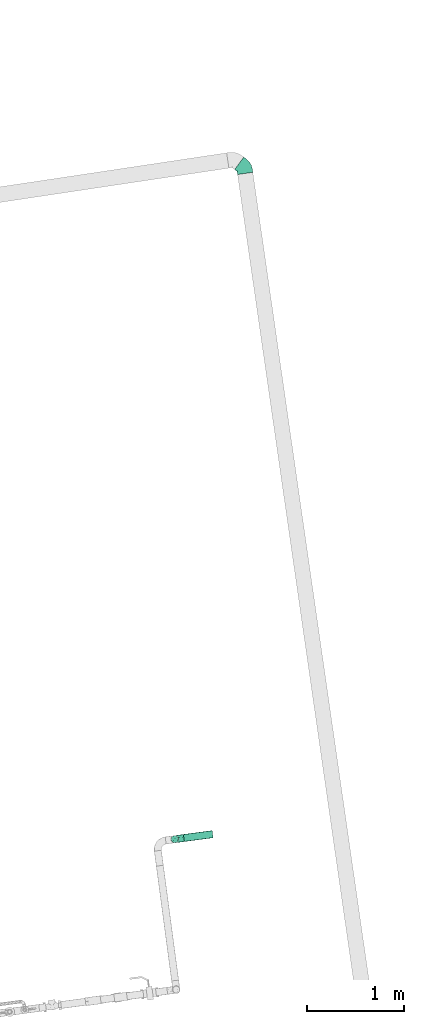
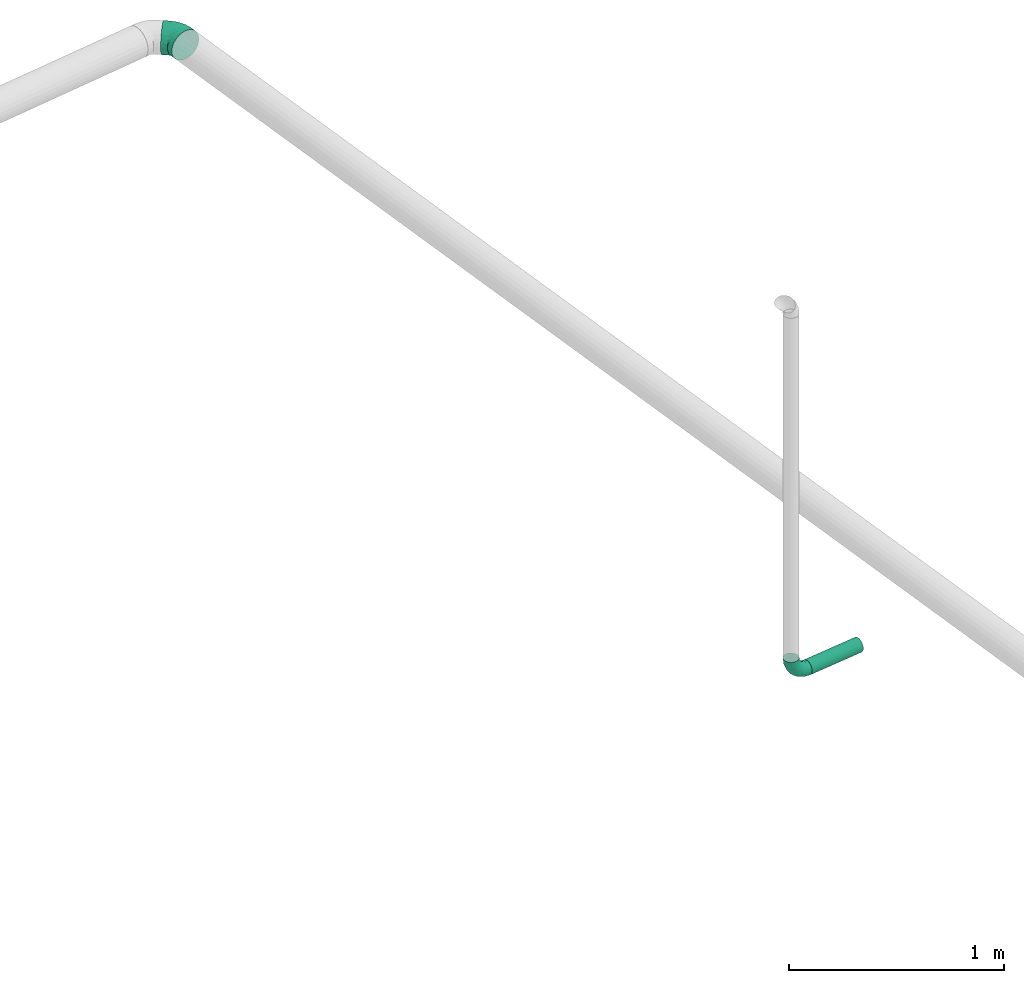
# One storey, part 337 of 374: 2 flow segments, 1 flow fitting.
"""IFC2X3 building model written with IfcOpenShell, lengths in metres."""

from ifc_helpers import new_model, si_unit, direction, origin, place, context, subcontext, project, spatial, open_shell, surface_model, source, transform, mapped, element, save


model = new_model("IFC2X3")

# Units and contexts
model_context = context("Model", 3, precision=1e-05, world=origin(), true_north=direction((-0.4480736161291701, 0.8939966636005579)))
body_context = subcontext(model_context, "Body", "Model", "MODEL_VIEW")
ifc_project = project(units=[si_unit("LENGTHUNIT", "METRE"), si_unit("AREAUNIT", "SQUARE_METRE"), si_unit("VOLUMEUNIT", "CUBIC_METRE"), si_unit("PLANEANGLEUNIT", "RADIAN"), si_unit("THERMODYNAMICTEMPERATUREUNIT", "KELVIN"), si_unit("MASSUNIT", "GRAM", prefix="KILO"), si_unit("TIMEUNIT", "SECOND")], contexts=[model_context])

# Site, building, storey
site_placement = place(None, origin())
site = spatial("IfcSite", under=ifc_project, at=site_placement, Name="Site 1", CompositionType="ELEMENT")
building_placement = place(site_placement, origin())
building = spatial("IfcBuilding", under=site, at=building_placement, Name="Undefined", CompositionType="ELEMENT")
storey_placement = place(building_placement, origin())
storey = spatial("IfcBuildingStorey", under=building, at=storey_placement, Name="Rez de chauss\x8ee", CompositionType="ELEMENT", Elevation=0.0)

# Flow fitting
shared_shape_1 = source(origin(), body_context, "Body", "SurfaceModel", [
    surface_model("IfcFaceBasedSurfaceModel", [(0.0, 0.020884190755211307, 0.0), (0.0, 0.0, 0.0), (0.03259999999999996, -3.552713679e-15, -8.8817842e-16), (0.032600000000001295, 0.0208841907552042, -1.776356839e-15), (0.0, -0.020172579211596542, -0.005405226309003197), (0.03259999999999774, -0.020172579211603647, -0.005405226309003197), (0.0, -0.03825881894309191, -0.015847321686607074), (0.03259999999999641, -0.038258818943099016, -0.015847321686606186), (0.0, -0.05302617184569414, -0.0306146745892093), (0.03259999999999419, -0.05302617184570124, -0.030614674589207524), (0.0, -0.06346826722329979, -0.04870091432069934), (0.0325999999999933, -0.06346826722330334, -0.04870091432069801), (0.0, -0.06887349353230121, -0.06887349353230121), (0.03259999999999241, -0.06887349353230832, -0.06887349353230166), (0.0, -0.06887349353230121, -0.08975768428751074), (0.03259999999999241, -0.06887349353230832, -0.08975768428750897), (0.0, -0.06346826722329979, -0.10993026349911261), (0.03259999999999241, -0.0634682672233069, -0.10993026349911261), (0.0, -0.05302617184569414, -0.12801650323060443), (0.0325999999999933, -0.05302617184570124, -0.12801650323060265), (0.0, -0.038258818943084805, -0.14278385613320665), (0.03259999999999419, -0.03825881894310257, -0.14278385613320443), (0.0, -0.020172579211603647, -0.15322595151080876), (0.03259999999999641, -0.0201725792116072, -0.1532259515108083), (0.0, 7.105427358e-15, -0.15863117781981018), (0.03259999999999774, -3.552713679e-15, -0.15863117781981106), (0.0, 0.020884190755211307, -0.15863117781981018), (0.03259999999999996, 0.0208841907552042, -0.15863117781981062), (0.0, 0.04105676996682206, -0.15322595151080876), (0.032600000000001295, 0.041056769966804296, -0.15322595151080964), (0.0, 0.05914300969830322, -0.1427838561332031), (0.03260000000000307, 0.05914300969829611, -0.14278385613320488), (0.0, 0.07391036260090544, -0.12801650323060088), (0.03260000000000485, 0.07391036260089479, -0.12801650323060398), (0.0, 0.0843524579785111, -0.10993026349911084), (0.03260000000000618, 0.08435245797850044, -0.1099302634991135), (0.0, 0.08975768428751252, -0.08975768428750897), (0.032600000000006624, 0.08975768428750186, -0.08975768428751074), (0.0, 0.08975768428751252, -0.06887349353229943), (0.032600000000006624, 0.08975768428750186, -0.0688734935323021), (0.0, 0.0843524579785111, -0.048700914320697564), (0.032600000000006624, 0.08435245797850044, -0.04870091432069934), (0.0, 0.07391036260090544, -0.030614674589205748), (0.03260000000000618, 0.07391036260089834, -0.030614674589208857), (0.0, 0.05914300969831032, -0.015847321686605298), (0.03260000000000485, 0.05914300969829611, -0.015847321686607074), (0.0, 0.04105676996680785, -0.005405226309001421), (0.03260000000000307, 0.041056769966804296, -0.005405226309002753), (0.07345514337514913, -0.06352053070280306, -0.09046241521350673), (0.07416326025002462, -0.06342775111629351, -0.06959043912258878), (0.11150520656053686, -0.04782917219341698, -0.09252822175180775), (0.11287282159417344, -0.047464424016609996, -0.0716920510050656), (0.14413770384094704, -0.022876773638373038, -0.09581326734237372), (0.14607091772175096, -0.022079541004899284, -0.07503403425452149), (0.0713790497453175, -0.05838732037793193, -0.11059918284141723), (0.10749556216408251, -0.04349333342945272, -0.11256001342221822), (0.13846980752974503, -0.019808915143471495, -0.11567812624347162), (0.06807646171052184, -0.04837793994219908, -0.12862845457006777), (0.10111713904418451, -0.034752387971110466, -0.13042229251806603), (0.12945348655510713, -0.013085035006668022, -0.13327485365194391), (0.06377244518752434, -0.03417451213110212, -0.1433215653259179), (0.09280461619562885, -0.02220201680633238, -0.1448977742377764), (0.11770318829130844, -0.003163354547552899, -0.14740426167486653), (0.05876031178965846, -0.01674497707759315, -0.15367720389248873), (0.08312447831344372, -0.006697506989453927, -0.15499997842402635), (0.10401967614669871, 0.009279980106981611, -0.1571034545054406), (0.05338163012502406, 0.0027228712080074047, -0.15898965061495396), (0.07273641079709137, 0.01070453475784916, -0.16004045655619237), (0.08933545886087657, 0.02339697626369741, -0.16171144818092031), (0.048002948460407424, 0.022902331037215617, -0.15889687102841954), (0.06234834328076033, 0.028818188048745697, -0.15967570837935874), (0.07465124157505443, 0.03822558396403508, -0.1609142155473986), (0.042990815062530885, 0.04241820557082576, -0.15340518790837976), (0.05266820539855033, 0.046409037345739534, -0.15393059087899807), (0.0609677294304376, 0.052755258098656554, -0.15476608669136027), (0.038686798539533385, 0.05994052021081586, -0.14288885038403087), (0.044355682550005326, 0.06227829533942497, -0.14319662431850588), (0.0492174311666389, 0.06599582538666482, -0.1436860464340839), (0.035384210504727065, 0.07427515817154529, -0.1280645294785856), (0.037977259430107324, 0.07534449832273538, -0.12820531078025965), (0.04020111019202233, 0.07704496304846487, -0.12842918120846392), (0.03330811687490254, 0.08444523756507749, -0.10994247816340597), (0.03396761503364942, 0.08471720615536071, -0.10997828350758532), (0.034533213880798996, 0.0851496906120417, -0.11003522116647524), (0.03330811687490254, 0.0898504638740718, -0.06888570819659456), (0.03396761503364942, 0.09012243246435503, -0.06892151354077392), (0.034533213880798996, 0.09055491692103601, -0.06897845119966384), (0.035384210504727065, 0.08471725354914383, -0.04874894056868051), (0.037977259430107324, 0.08578659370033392, -0.04888972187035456), (0.04020111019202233, 0.08748705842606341, -0.04911359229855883), (0.038686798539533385, 0.07470787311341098, -0.03071966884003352), (0.044355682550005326, 0.07704564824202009, -0.03102744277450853), (0.0492174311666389, 0.08076317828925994, -0.03151686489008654), (0.042990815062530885, 0.060504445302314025, -0.016026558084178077), (0.05266820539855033, 0.0644952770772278, -0.016551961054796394), (0.0609677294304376, 0.07084149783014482, -0.01738745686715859), (0.048002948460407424, 0.043074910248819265, -0.005670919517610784), (0.06234834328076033, 0.048990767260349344, -0.006449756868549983), (0.07465124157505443, 0.05839816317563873, -0.0076882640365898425), (0.05338163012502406, 0.0236070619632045, -0.0003584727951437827), (0.07273641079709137, 0.031588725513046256, -0.0014092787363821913), (0.08933545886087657, 0.04428116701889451, -0.003080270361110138), (0.05876031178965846, 0.003427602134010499, -0.0004512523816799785), (0.08312447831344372, 0.01347507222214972, -0.0017740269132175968), (0.10401967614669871, 0.02945255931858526, -0.003877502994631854), (0.06377244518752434, -0.016088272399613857, -0.005942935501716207), (0.09280461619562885, -0.004115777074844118, -0.007519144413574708), (0.11770318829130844, 0.014922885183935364, -0.010025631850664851), (0.06807646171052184, -0.033610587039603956, -0.01645927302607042), (0.10111713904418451, -0.019985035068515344, -0.018253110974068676), (0.12945348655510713, 0.001682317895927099, -0.02110567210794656), (0.0713790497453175, -0.04794522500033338, -0.031283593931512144), (0.10749556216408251, -0.03305123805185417, -0.03324442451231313), (0.13846980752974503, -0.009366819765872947, -0.036362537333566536), (0.07345514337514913, -0.05811530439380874, -0.04940564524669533), (0.11150520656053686, -0.042423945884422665, -0.05147145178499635), (0.14413770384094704, -0.017471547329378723, -0.05475649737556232), (0.16712116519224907, 4.5133613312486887e-05, -0.09883099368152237), (0.16905437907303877, 0.0008423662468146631, -0.07805176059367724), (0.16145326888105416, 0.003112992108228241, -0.1186958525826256), (0.15243694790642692, 0.009836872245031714, -0.13629257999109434), (0.14068664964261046, 0.01975855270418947, -0.15042198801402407), (0.1270031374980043, 0.032201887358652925, -0.16012118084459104), (0.11231892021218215, 0.04631888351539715, -0.16472917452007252), (0.09763470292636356, 0.06114749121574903, -0.16393194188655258), (0.08395119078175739, 0.07567716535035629, -0.15778381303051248), (0.07220089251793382, 0.08891773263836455, -0.1467037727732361), (0.06318457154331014, 0.09996687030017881, -0.1314469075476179), (0.057516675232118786, 0.1080715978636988, -0.11305294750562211), (0.055583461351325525, 0.11267959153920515, -0.0927754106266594), (0.057516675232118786, 0.11347682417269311, -0.07199617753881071), (0.06318457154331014, 0.11040896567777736, -0.05213131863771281), (0.07220089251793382, 0.10368508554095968, -0.03453459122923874), (0.08395119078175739, 0.09376340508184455, -0.020405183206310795), (0.09763470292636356, 0.08132007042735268, -0.010705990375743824), (0.11231892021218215, 0.06720307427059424, -0.0060979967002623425), (0.1270031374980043, 0.05237446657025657, -0.006895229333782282), (0.14068664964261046, 0.03784479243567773, -0.013043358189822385), (0.15243694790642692, 0.024604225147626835, -0.02412339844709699), (0.16145326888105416, 0.013555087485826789, -0.03938026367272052), (0.16712116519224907, 0.005450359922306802, -0.05777422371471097)], [open_shell([[[0, 1, 2, 3]], [[1, 4, 5, 2]], [[4, 6, 7, 5]], [[6, 8, 9, 7]], [[8, 10, 11, 9]], [[10, 12, 13, 11]], [[12, 14, 15, 13]], [[14, 16, 17, 15]], [[16, 18, 19, 17]], [[18, 20, 21, 19]], [[20, 22, 23, 21]], [[22, 24, 25, 23]], [[24, 26, 27, 25]], [[26, 28, 29, 27]], [[28, 30, 31, 29]], [[30, 32, 33, 31]], [[32, 34, 35, 33]], [[34, 36, 37, 35]], [[36, 38, 39, 37]], [[38, 40, 41, 39]], [[40, 42, 43, 41]], [[42, 44, 45, 43]], [[44, 46, 47, 45]], [[46, 0, 3, 47]], [[13, 15, 48, 49]], [[49, 48, 50, 51]], [[51, 50, 52, 53]], [[15, 17, 54, 48]], [[48, 54, 55, 50]], [[50, 55, 56, 52]], [[17, 19, 57, 54]], [[54, 57, 58, 55]], [[55, 58, 59, 56]], [[19, 21, 60, 57]], [[57, 60, 61, 58]], [[58, 61, 62, 59]], [[21, 23, 63, 60]], [[60, 63, 64, 61]], [[61, 64, 65, 62]], [[23, 25, 66, 63]], [[63, 66, 67, 64]], [[64, 67, 68, 65]], [[25, 27, 69, 66]], [[66, 69, 70, 67]], [[67, 70, 71, 68]], [[27, 29, 72, 69]], [[69, 72, 73, 70]], [[70, 73, 74, 71]], [[29, 31, 75, 72]], [[72, 75, 76, 73]], [[73, 76, 77, 74]], [[31, 33, 78, 75]], [[75, 78, 79, 76]], [[76, 79, 80, 77]], [[33, 35, 81]], [[81, 78, 33]], [[78, 81, 82, 79]], [[79, 82, 83, 80]], [[35, 37, 81]], [[81, 37, 82]], [[82, 37, 83]], [[37, 39, 84]], [[37, 84, 85]], [[37, 85, 86]], [[39, 41, 87, 84]], [[84, 87, 88, 85]], [[85, 88, 89, 86]], [[41, 43, 90, 87]], [[87, 90, 91, 88]], [[88, 91, 92, 89]], [[43, 45, 93, 90]], [[90, 93, 94, 91]], [[91, 94, 95, 92]], [[45, 47, 96, 93]], [[93, 96, 97, 94]], [[94, 97, 98, 95]], [[47, 3, 99, 96]], [[96, 99, 100, 97]], [[97, 100, 101, 98]], [[3, 2, 102, 99]], [[99, 102, 103, 100]], [[100, 103, 104, 101]], [[2, 5, 105, 102]], [[102, 105, 106, 103]], [[103, 106, 107, 104]], [[5, 7, 108, 105]], [[105, 108, 109, 106]], [[106, 109, 110, 107]], [[7, 9, 111, 108]], [[108, 111, 112, 109]], [[109, 112, 113, 110]], [[9, 11, 114, 111]], [[111, 114, 115, 112]], [[112, 115, 116, 113]], [[11, 13, 49, 114]], [[114, 49, 51, 115]], [[115, 51, 53, 116]], [[53, 52, 117, 118]], [[52, 56, 119, 117]], [[56, 59, 120, 119]], [[59, 62, 121, 120]], [[62, 65, 122, 121]], [[65, 68, 123, 122]], [[68, 71, 124, 123]], [[71, 74, 125, 124]], [[74, 77, 126, 125]], [[77, 80, 127, 126]], [[80, 83, 128, 127]], [[83, 37, 129, 128]], [[37, 86, 130, 129]], [[86, 89, 131, 130]], [[89, 92, 132, 131]], [[92, 95, 133, 132]], [[95, 98, 134, 133]], [[98, 101, 135, 134]], [[101, 104, 136, 135]], [[104, 107, 137, 136]], [[107, 110, 138, 137]], [[110, 113, 139, 138]], [[113, 116, 140, 139]], [[116, 53, 118, 140]]])]),
])
flow_fitting_placement = place(storey_placement, origin())
element("IfcFlowFitting", 1, at=flow_fitting_placement, inside=storey, Name="PE-HD coude 45°", ObjectType="PE-HD coude 45°", context=body_context, shape_type="MappedRepresentation", body=[
    mapped(shared_shape_1, transform((68.39588247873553, 29.015426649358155, -0.7163137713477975), x_axis=(-0.14239715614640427, 0.9898096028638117, 0.0), y_axis=(-0.981341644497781, -0.14117892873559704, 0.1305261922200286), z_axis=(0.12919607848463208, 0.018586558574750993, 0.9914448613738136))),
])

# Flow segments
shared_shape_2 = source(origin(), body_context, "Body", "SurfaceModel", [
    surface_model("IfcFaceBasedSurfaceModel", [(0.034733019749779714, -1.776356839e-15, 1.776356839e-15), (0.03456378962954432, 0.009931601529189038, 5.329070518e-15), (0.00016923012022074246, 0.009931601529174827, -1.33226763e-15), (0.0, 0.0, 0.0), (-0.033053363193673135, 0.011083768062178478, -0.008827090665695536), (-0.03354952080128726, 0.001163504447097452, -0.00891395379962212), (-0.06283992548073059, 0.0133095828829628, -0.025879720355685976), (-0.06362919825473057, 0.003411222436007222, -0.02613439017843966), (-0.08716055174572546, 0.01645736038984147, -0.04999578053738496), (-0.08818915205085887, 0.0065899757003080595, -0.05048776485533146), (-0.10435783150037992, 0.02031258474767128, -0.07953180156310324), (-0.10555566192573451, 0.010483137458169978, -0.08031443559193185), (-0.11325979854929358, 0.024612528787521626, -0.11247495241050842), (-0.11454522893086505, 0.01482539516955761, -0.11358176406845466), (0.034067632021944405, 0.01951912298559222, -0.0025492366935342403), (0.0006653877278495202, 0.0195191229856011, -0.002549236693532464), (-0.031598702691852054, 0.02063804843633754, -0.011121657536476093), (-0.06052589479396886, 0.022799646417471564, -0.027682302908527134), (-0.08414484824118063, 0.025856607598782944, -0.05110259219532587), (-0.10084597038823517, 0.029600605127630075, -0.07978647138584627), (-0.10949110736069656, 0.03377649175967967, -0.11177918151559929), (0.03327835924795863, 0.02810919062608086, -0.00747398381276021), (0.001454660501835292, 0.028109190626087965, -0.0074739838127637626), (-0.029284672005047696, 0.02917523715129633, -0.015641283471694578), (-0.05684480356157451, 0.031234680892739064, -0.03141929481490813), (-0.07934755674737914, 0.034147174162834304, -0.05373277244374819), (-0.09525940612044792, 0.03771423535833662, -0.08106108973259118), (-0.10349598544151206, 0.04169277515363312, -0.11154186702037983), (0.0322497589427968, 0.035116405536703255, -0.014438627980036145), (0.002483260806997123, 0.035116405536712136, -0.014438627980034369), (-0.02626896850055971, 0.036113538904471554, -0.02207796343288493), (-0.05204751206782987, 0.03803985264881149, -0.03683602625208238), (-0.07309560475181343, 0.040764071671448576, -0.05770707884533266), (-0.08797885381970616, 0.04410054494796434, -0.08326879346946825), (-0.0956829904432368, 0.04782189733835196, -0.11177918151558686), (0.031051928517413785, 0.04006323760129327, -0.0229685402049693), (0.0036810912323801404, 0.04006323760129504, -0.022968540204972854), (-0.022757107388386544, 0.04098011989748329, -0.029993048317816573), (-0.04646094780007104, 0.04275140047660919, -0.04356335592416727), (-0.06581505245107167, 0.045256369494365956, -0.06275466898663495), (-0.07950047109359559, 0.04832431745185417, -0.08625913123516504), (-0.08658456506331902, 0.05174616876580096, -0.1124749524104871), (0.02976649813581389, 0.042612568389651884, -0.03248242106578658), (0.004966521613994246, 0.042612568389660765, -0.03248242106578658), (-0.018988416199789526, 0.04344333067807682, -0.038847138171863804), (-0.040465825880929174, 0.04504824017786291, -0.05114282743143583), (-0.058002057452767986, 0.047317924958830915, -0.0685315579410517), (-0.0704020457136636, 0.05009770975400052, -0.08982831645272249), (-0.07682075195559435, 0.05319815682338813, -0.11358176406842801), (0.028481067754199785, 0.042590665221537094, -0.0423319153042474), (0.0062519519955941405, 0.042590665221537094, -0.04233191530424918), (-0.015219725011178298, 0.04333530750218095, -0.04803684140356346), (-0.03447070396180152, 0.04477384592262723, -0.05905791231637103), (-0.050189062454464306, 0.04680824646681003, -0.07464406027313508), (-0.061303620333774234, 0.049299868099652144, -0.09373311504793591), (-0.06705693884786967, 0.052078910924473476, -0.11502418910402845), (0.027283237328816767, 0.03999902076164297, -0.05184579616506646), (0.007449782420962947, 0.039999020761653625, -0.051845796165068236), (-0.011707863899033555, 0.04066341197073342, -0.05693589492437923), (-0.028884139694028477, 0.04194691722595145, -0.06676921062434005), (-0.042908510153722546, 0.043762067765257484, -0.08067561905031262), (-0.052825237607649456, 0.04598516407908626, -0.0977074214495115), (-0.0579585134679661, 0.048464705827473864, -0.1167039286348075), (0.026254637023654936, 0.03501425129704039, -0.06037570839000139), (0.008478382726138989, 0.035014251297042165, -0.06037570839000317), (-0.008692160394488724, 0.03560972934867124, -0.06493784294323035), (-0.024086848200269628, 0.0367601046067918, -0.07375121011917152), (-0.03665655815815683, 0.038386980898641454, -0.08621519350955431), (-0.045544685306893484, 0.040379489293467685, -0.10148039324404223), (-0.05014551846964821, 0.042601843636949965, -0.1185065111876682), (0.025465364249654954, 0.0279760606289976, -0.0673403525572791), (0.00926765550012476, 0.027976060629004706, -0.06734035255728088), (-0.00637812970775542, 0.028518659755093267, -0.07149736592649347), (-0.02040575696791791, 0.029566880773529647, -0.07952809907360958), (-0.03185926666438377, 0.031049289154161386, -0.09088527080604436), (-0.03995812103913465, 0.03286486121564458, -0.1047949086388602), (-0.04415039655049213, 0.03488986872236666, -0.12030909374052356), (0.02496920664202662, 0.019364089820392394, -0.07226509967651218), (0.009763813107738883, 0.019364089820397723, -0.07226509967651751), (-0.004923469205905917, 0.019873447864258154, -0.07616744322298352), (-0.018091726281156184, 0.020857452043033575, -0.0837061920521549), (-0.028843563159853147, 0.022249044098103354, -0.0943675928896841), (-0.03644625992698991, 0.023953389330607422, -0.10742508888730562), (-0.040381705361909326, 0.025854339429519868, -0.12198883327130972), (0.024799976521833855, 0.009765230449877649, -0.07481433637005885), (0.00993304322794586, 0.009765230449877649, -0.0748143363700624), (-0.004427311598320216, 0.010263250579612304, -0.07862981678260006), (-0.01730245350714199, 0.011225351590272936, -0.08600075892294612), (-0.027814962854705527, 0.012585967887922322, -0.0964248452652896), (-0.035248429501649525, 0.014252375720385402, -0.10919169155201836), (-0.039096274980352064, 0.01611101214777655, -0.12343125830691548), (0.02496920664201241, -0.00016637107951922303, -0.07481433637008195), (0.009763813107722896, -0.0001663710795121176, -0.07481433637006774), (-0.004923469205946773, 0.00034298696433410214, -0.07871667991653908), (-0.018091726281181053, 0.0013269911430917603, -0.08625542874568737), (-0.028843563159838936, 0.0027185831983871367, -0.09691682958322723), (-0.03644625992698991, 0.004422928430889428, -0.10997432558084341), (-0.04038170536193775, 0.006323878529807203, -0.12453806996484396), (0.025465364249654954, -0.009753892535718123, -0.07226509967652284), (0.00926765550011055, -0.00975389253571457, -0.07226509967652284), (-0.00637812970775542, -0.009211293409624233, -0.0764221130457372), (-0.02040575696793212, -0.008163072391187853, -0.08445284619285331), (-0.03185926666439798, -0.006680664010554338, -0.09581001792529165), (-0.03995812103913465, -0.004865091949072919, -0.10971965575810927), (-0.04415039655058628, -0.002840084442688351, -0.12523384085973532), (0.026254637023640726, -0.018343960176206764, -0.06734035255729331), (0.008478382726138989, -0.018343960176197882, -0.06734035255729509), (-0.008692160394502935, -0.017748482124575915, -0.0719024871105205), (-0.02408684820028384, -0.016598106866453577, -0.08071585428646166), (-0.03665655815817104, -0.01497123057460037, -0.09317983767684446), (-0.045544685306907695, -0.012978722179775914, -0.10844503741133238), (-0.05014551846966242, -0.01075636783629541, -0.1254711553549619), (0.027283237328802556, -0.02535117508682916, -0.06037570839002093), (0.007449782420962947, -0.025351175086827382, -0.06037570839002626), (-0.011707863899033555, -0.02468678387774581, -0.0654658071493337), (-0.028884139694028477, -0.023403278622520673, -0.07529912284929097), (-0.042908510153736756, -0.021588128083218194, -0.08920553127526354), (-0.052825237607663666, -0.019365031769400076, -0.10623733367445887), (-0.05795851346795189, -0.01688549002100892, -0.12523384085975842), (0.028481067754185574, -0.030298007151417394, -0.051845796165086), (0.0062519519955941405, -0.030298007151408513, -0.051845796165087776), (-0.015219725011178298, -0.0295533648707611, -0.05755072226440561), (-0.03447070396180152, -0.02811482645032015, -0.06857179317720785), (-0.05018906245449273, -0.026080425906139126, -0.08415794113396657), (-0.061303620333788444, -0.023588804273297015, -0.10324699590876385), (-0.06705693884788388, -0.020809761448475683, -0.12453806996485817), (0.02976649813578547, -0.03284733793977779, -0.042331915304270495), (0.004966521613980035, -0.03284733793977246, -0.04233191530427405), (-0.018988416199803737, -0.03201657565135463, -0.04869663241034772), (-0.040465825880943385, -0.030411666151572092, -0.06099232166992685), (-0.058002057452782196, -0.02814198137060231, -0.07838105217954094), (-0.07040204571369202, -0.025362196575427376, -0.09967781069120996), (-0.07682075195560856, -0.02226174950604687, -0.12343125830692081), (0.031051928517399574, -0.03282543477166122, -0.0324824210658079), (0.0036810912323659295, -0.03282543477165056, -0.03248242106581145), (-0.022757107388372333, -0.03190855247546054, -0.03950692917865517), (-0.04646094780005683, -0.030137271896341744, -0.05307723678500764), (-0.06581505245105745, -0.027632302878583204, -0.07226854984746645), (-0.07950047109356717, -0.024564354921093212, -0.09577301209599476), (-0.08658456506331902, -0.021142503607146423, -0.12198883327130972), (0.03224975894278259, -0.03023379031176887, -0.022968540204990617), (0.002483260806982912, -0.03023379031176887, -0.022968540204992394), (-0.026268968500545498, -0.02923665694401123, -0.03060787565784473), (-0.05204751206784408, -0.02731034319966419, -0.04536593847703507), (-0.07309560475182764, -0.02458612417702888, -0.06623699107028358), (-0.08797885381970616, -0.021249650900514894, -0.09179870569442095), (-0.09568299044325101, -0.017528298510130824, -0.12030909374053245), (0.03327835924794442, -0.025249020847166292, -0.014438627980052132), (0.0014546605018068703, -0.02524902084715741, -0.014438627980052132), (-0.02928467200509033, -0.024182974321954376, -0.022605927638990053), (-0.05684480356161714, -0.022123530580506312, -0.03838393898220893), (-0.07934755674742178, -0.019211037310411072, -0.060697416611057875), (-0.09525940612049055, -0.015643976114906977, -0.08802573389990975), (-0.1034959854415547, -0.011665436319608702, -0.11850651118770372), (0.034067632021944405, -0.018210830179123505, -0.007473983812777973), (0.0006653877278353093, -0.018210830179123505, -0.007473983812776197), (-0.031598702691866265, -0.017091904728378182, -0.01604640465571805), (-0.06052589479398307, -0.014930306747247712, -0.03260705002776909), (-0.08414484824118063, -0.011873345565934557, -0.05602733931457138), (-0.10084597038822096, -0.008129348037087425, -0.08471121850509), (-0.10949110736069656, -0.003953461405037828, -0.11670392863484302), (0.03456378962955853, -0.009598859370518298, -0.0025492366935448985), (0.00016923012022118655, -0.009598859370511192, -0.002549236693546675), (-0.033053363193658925, -0.00844669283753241, -0.011376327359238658), (-0.06283992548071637, -0.0062208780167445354, -0.028428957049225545), (-0.08716055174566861, -0.003073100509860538, -0.05254501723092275), (-0.10435783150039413, 0.0007821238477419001, -0.08208103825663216), (-0.11325979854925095, 0.005082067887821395, -0.11502418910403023), (0.0001692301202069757, -0.00959885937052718, -0.002549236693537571)], [open_shell([[[0, 1, 2, 3]], [[3, 2, 4, 5]], [[5, 4, 6, 7]], [[7, 6, 8, 9]], [[9, 8, 10, 11]], [[11, 10, 12, 13]], [[1, 14, 15, 2]], [[2, 15, 16, 4]], [[4, 16, 17, 6]], [[6, 17, 18, 8]], [[8, 18, 19, 10]], [[10, 19, 20, 12]], [[14, 21, 22, 15]], [[15, 22, 23, 16]], [[16, 23, 24, 17]], [[17, 24, 25, 18]], [[18, 25, 26, 19]], [[19, 26, 27, 20]], [[21, 28, 29, 22]], [[22, 29, 30, 23]], [[23, 30, 31, 24]], [[24, 31, 32, 25]], [[25, 32, 33, 26]], [[26, 33, 34, 27]], [[28, 35, 36, 29]], [[29, 36, 37, 30]], [[30, 37, 38, 31]], [[31, 38, 39, 32]], [[32, 39, 40, 33]], [[33, 40, 41, 34]], [[35, 42, 43, 36]], [[36, 43, 44, 37]], [[37, 44, 45, 38]], [[38, 45, 46, 39]], [[39, 46, 47, 40]], [[40, 47, 48, 41]], [[42, 49, 50, 43]], [[43, 50, 51, 44]], [[44, 51, 52, 45]], [[45, 52, 53, 46]], [[46, 53, 54, 47]], [[47, 54, 55, 48]], [[49, 56, 57, 50]], [[50, 57, 58, 51]], [[51, 58, 59, 52]], [[52, 59, 60, 53]], [[53, 60, 61, 54]], [[54, 61, 62, 55]], [[56, 63, 64, 57]], [[57, 64, 65, 58]], [[58, 65, 66, 59]], [[59, 66, 67, 60]], [[60, 67, 68, 61]], [[61, 68, 69, 62]], [[63, 70, 71, 64]], [[64, 71, 72, 65]], [[65, 72, 73, 66]], [[66, 73, 74, 67]], [[67, 74, 75, 68]], [[68, 75, 76, 69]], [[70, 77, 78, 71]], [[71, 78, 79, 72]], [[72, 79, 80, 73]], [[73, 80, 81, 74]], [[74, 81, 82, 75]], [[75, 82, 83, 76]], [[77, 84, 85, 78]], [[78, 85, 86, 79]], [[79, 86, 87, 80]], [[80, 87, 88, 81]], [[81, 88, 89, 82]], [[82, 89, 90, 83]], [[84, 91, 92, 85]], [[85, 92, 93, 86]], [[86, 93, 94, 87]], [[87, 94, 95, 88]], [[88, 95, 96, 89]], [[89, 96, 97, 90]], [[91, 98, 99, 92]], [[92, 99, 100, 93]], [[93, 100, 101, 94]], [[94, 101, 102, 95]], [[95, 102, 103, 96]], [[96, 103, 104, 97]], [[98, 105, 106, 99]], [[99, 106, 107, 100]], [[100, 107, 108, 101]], [[101, 108, 109, 102]], [[102, 109, 110, 103]], [[103, 110, 111, 104]], [[105, 112, 113, 106]], [[106, 113, 114, 107]], [[107, 114, 115, 108]], [[108, 115, 116, 109]], [[109, 116, 117, 110]], [[110, 117, 118, 111]], [[112, 119, 120, 113]], [[113, 120, 121, 114]], [[114, 121, 122, 115]], [[115, 122, 123, 116]], [[116, 123, 124, 117]], [[117, 124, 125, 118]], [[119, 126, 127, 120]], [[120, 127, 128, 121]], [[121, 128, 129, 122]], [[122, 129, 130, 123]], [[123, 130, 131, 124]], [[124, 131, 132, 125]], [[126, 133, 134, 127]], [[127, 134, 135, 128]], [[128, 135, 136, 129]], [[129, 136, 137, 130]], [[130, 137, 138, 131]], [[131, 138, 139, 132]], [[133, 140, 141, 134]], [[134, 141, 142, 135]], [[135, 142, 143, 136]], [[136, 143, 144, 137]], [[137, 144, 145, 138]], [[138, 145, 146, 139]], [[140, 147, 148, 141]], [[141, 148, 149, 142]], [[142, 149, 150, 143]], [[143, 150, 151, 144]], [[144, 151, 152, 145]], [[145, 152, 153, 146]], [[147, 154, 155, 148]], [[148, 155, 156, 149]], [[149, 156, 157, 150]], [[150, 157, 158, 151]], [[151, 158, 159, 152]], [[152, 159, 160, 153]], [[154, 161, 162, 155]], [[155, 162, 163, 156]], [[156, 163, 164, 157]], [[157, 164, 165, 158]], [[158, 165, 166, 159]], [[159, 166, 167, 160]], [[161, 0, 3, 162]], [[168, 3, 5, 163]], [[163, 5, 7, 164]], [[164, 7, 9, 165]], [[165, 9, 11, 166]], [[166, 11, 13, 167]]])]),
])
flow_segment_1_placement = place(storey_placement, origin())
element("IfcFlowSegment", 2, at=flow_segment_1_placement, inside=storey, Name="Tube coudé", ObjectType="Tube coudé", context=body_context, shape_type="MappedRepresentation", body=[
    mapped(shared_shape_2, transform((67.61383294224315, 22.119703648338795, 0.1292559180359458), x_axis=(-0.1293795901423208, -0.017262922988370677, 0.9914448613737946), y_axis=(-0.003950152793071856, 0.999849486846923, 0.016893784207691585), z_axis=(-0.991587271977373, -0.0017306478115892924, -0.1294283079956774))),
])
shared_shape_3 = source(origin(), body_context, "Body", "SurfaceModel", [
    surface_model("IfcFaceBasedSurfaceModel", [(0.0, 0.009933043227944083, 0.0), (0.0, 0.0, 0.0), (0.3000000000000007, 0.0, 0.0), (0.30000000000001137, 0.009933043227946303, 0.0), (0.0, -0.009594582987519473, -0.002570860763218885), (0.29999999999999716, -0.009594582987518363, -0.002570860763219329), (0.0, -0.018196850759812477, -0.007537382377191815), (0.30000000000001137, -0.018196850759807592, -0.00753738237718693), (0.0, -0.025220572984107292, -0.014561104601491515), (0.30000000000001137, -0.02522057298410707, -0.01456110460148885), (1.4210854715e-14, -0.030187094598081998, -0.023163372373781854), (0.29999999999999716, -0.030187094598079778, -0.023163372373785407), (0.0, -0.03275795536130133, -0.032757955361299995), (0.30000000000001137, -0.03275795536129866, -0.03275795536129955), (1.4210854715e-14, -0.03275795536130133, -0.0426909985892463), (0.30000000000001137, -0.03275795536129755, -0.042690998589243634), (0.0, -0.030187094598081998, -0.052285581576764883), (0.30000000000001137, -0.030187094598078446, -0.052285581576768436), (0.0, -0.02522057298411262, -0.06088784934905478), (0.30000000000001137, -0.025220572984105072, -0.06088784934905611), (0.0, -0.0181968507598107, -0.06791157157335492), (0.29999999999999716, -0.018196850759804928, -0.06791157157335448), (0.0, -0.009594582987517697, -0.07287809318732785), (0.30000000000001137, -0.009594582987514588, -0.07287809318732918), (0.0, -3.552713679e-15, -0.07544895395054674), (0.29999999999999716, 4.884981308e-15, -0.07544895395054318), (0.0, 0.009933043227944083, -0.07544895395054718), (0.30000000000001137, 0.0099330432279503, -0.07544895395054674), (1.4210854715e-14, 0.019527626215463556, -0.07287809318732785), (0.29999999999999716, 0.019527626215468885, -0.07287809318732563), (0.0, 0.028129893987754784, -0.06791157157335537), (0.30000000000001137, 0.02812989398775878, -0.0679115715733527), (0.0, 0.03515361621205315, -0.06088784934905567), (0.30000000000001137, 0.035153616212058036, -0.06088784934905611), (0.0, 0.04012013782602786, -0.05228558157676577), (0.30000000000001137, 0.040120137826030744, -0.052285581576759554), (0.0, 0.04269099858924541, -0.04269099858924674), (0.30000000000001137, 0.04269099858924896, -0.04269099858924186), (0.0, 0.04269099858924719, -0.03275795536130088), (0.29999999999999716, 0.04269099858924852, -0.03275795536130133), (0.0, 0.04012013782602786, -0.0231633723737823), (0.30000000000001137, 0.04012013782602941, -0.023163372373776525), (0.0, 0.03515361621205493, -0.014561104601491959), (0.30000000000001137, 0.03515361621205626, -0.014561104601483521), (1.4210854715e-14, 0.028129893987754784, -0.007537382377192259), (0.29999999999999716, 0.02812989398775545, -0.007537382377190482), (7.105427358e-15, 0.019527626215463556, -0.0025708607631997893), (0.30000000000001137, 0.019527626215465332, -0.002570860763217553)], [open_shell([[[0, 1, 2, 3]], [[1, 4, 5, 2]], [[4, 6, 7, 5]], [[6, 8, 9, 7]], [[8, 10, 11, 9]], [[10, 12, 13, 11]], [[12, 14, 15, 13]], [[14, 16, 17, 15]], [[16, 18, 19, 17]], [[18, 20, 21, 19]], [[20, 22, 23, 21]], [[22, 24, 25, 23]], [[24, 26, 27, 25]], [[26, 28, 29, 27]], [[28, 30, 31, 29]], [[30, 32, 33, 31]], [[32, 34, 35, 33]], [[34, 36, 37, 35]], [[36, 38, 39, 37]], [[38, 40, 41, 39]], [[40, 42, 43, 41]], [[42, 44, 45, 43]], [[44, 46, 47, 45]], [[46, 0, 3, 47]]])]),
])
flow_segment_2_placement = place(storey_placement, origin())
element("IfcFlowSegment", 3, at=flow_segment_2_placement, inside=storey, Name="Tube acier d'après DIN 2448", ObjectType="Tube acier d'après DIN 2448", context=body_context, shape_type="MappedRepresentation", body=[
    mapped(shared_shape_3, transform((67.74608130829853, 22.100270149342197, 0.05884372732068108), x_axis=(0.9912155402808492, 0.13225639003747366, 0.0), y_axis=(0.01726292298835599, -0.12937959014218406, 0.9914448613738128), z_axis=(0.13112491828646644, -0.982735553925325, -0.13052619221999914))),
])

save(model, "model.ifc")
